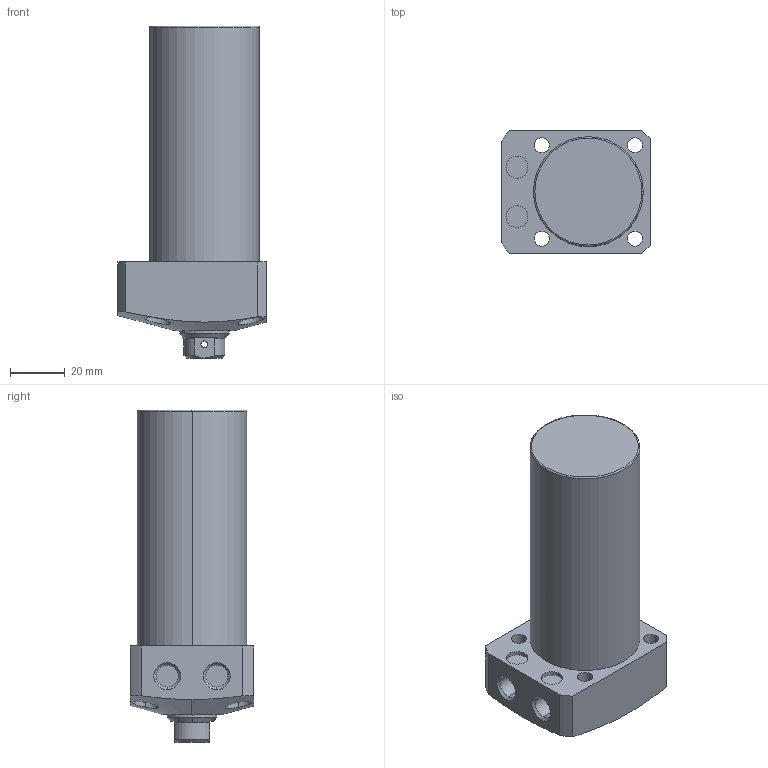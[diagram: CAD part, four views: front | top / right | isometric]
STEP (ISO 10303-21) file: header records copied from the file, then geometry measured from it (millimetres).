
FILE_DESCRIPTION (( 'STEP AP203' ), '1' );
FILE_NAME ('CLL-040CB-060.STEP', '2019-12-21T03:47:22', ( '' ), ( '' ), 'SwSTEP 2.0', 'SolidWorks 2015', '' );
FILE_SCHEMA (( 'CONFIG_CONTROL_DESIGN' ));
Length unit declared in the file: millimetre
Products named in the file (1): CLL-040CB-060
Bounding box: 54 x 45 x 121 mm (x, y, z)
Volume: 158478.1 mm3; surface area: 22940.1 mm2
Topology: 1 solids, 1 shells, 78 faces, 182 edges, 115 vertices
Faces by surface type: cylinder 39, plane 22, cone 15, torus 2
Entity records: 2721 total; most frequent: CARTESIAN_POINT 822, DIRECTION 394, ORIENTED_EDGE 360, EDGE_CURVE 180, AXIS2_PLACEMENT_3D 163, VERTEX_POINT 115, EDGE_LOOP 101, CIRCLE 84
